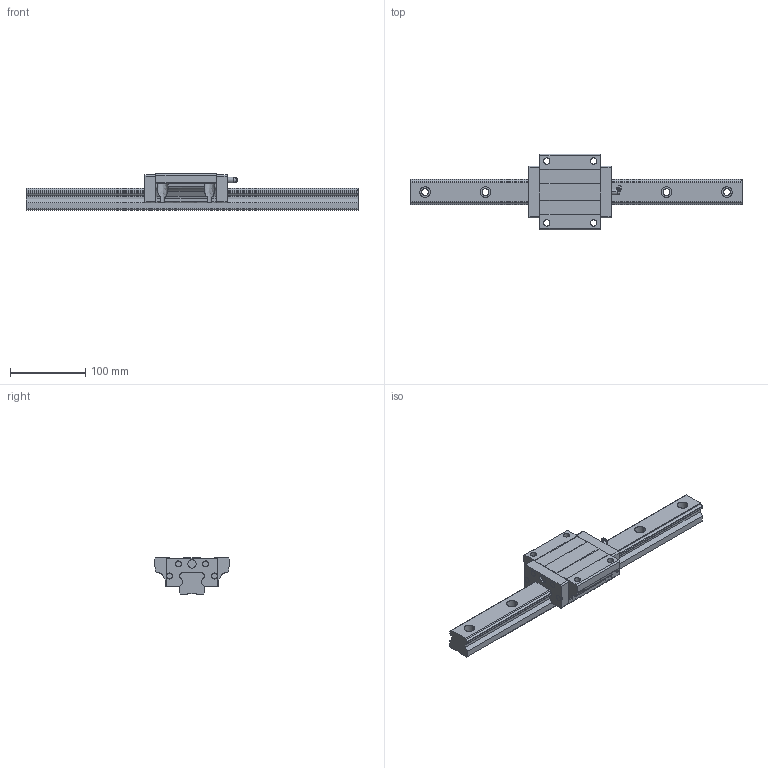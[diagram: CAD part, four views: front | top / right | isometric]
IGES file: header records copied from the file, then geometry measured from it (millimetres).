
Global section: file name: No Iges File Name specified; native system: AutoDesk Inventor R10; preprocessor: AutoDesk Inventor Iges Exporter R10; author: No Author specified; organization: No Organization specified; date: 20101222.164000; units: millimetre
Bounding box: 440 x 100 x 48 mm (x, y, z)
Surface area: 104377.1 mm2 (no closed solid volume)
Topology: 0 solids, 0 shells, 268 faces, 1918 edges, 1906 vertices
Faces by surface type: bspline 268
